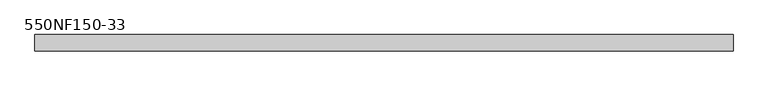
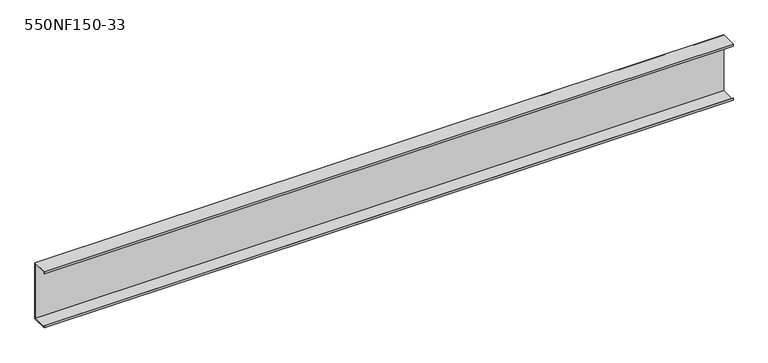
"""IFC4 building model written with IfcOpenShell, lengths in millimetres: beam geometry, BIMSF-SSMA-S : 550NF150-33."""

from ifc_helpers import new_model, si_unit, frame, origin, place, context, project, spatial, polyline, outline, extrude, source, transform, mapped, element, save


def beam_550nf150_33_da6981cb(model_context):
    return source(origin(), model_context, "Body", "SweptSolid", [
        extrude(outline(polyline([(19.05, 69.85), (19.05, -69.85), (-19.05, -69.85), (-19.05, -65.0748), (-18.1676842, -65.0748), (-18.1676842, -68.9676842), (18.1676842, -68.9676842), (18.1676842, 68.9676842), (-18.1676842, 68.9676842), (-18.1676842, 65.0748), (-19.05, 65.0748), (-19.05, 69.85), (19.05, 69.85)])), frame((-812.6047707, 0.0, 0.0), z_axis=(1.0, 0.0, 0.0), x_axis=(0.0, 1.0, 0.0)), (0.0, 0.0, 1.0), 1625.2095413),
    ])


if __name__ == "__main__":
    model = new_model("IFC4")
    model_context = context("Model", 3, world=origin())
    ifc_project = project(units=[si_unit("LENGTHUNIT", "METRE", prefix="MILLI")], contexts=[model_context])
    site = spatial("IfcSite", under=ifc_project)
    building = spatial("IfcBuilding", under=site)
    placement = place(None, origin())
    beam_550nf150_33_shape = beam_550nf150_33_da6981cb(model_context)
    element("IfcBeam", 1, ObjectType="BIMSF-SSMA-S : 550NF150-33", at=placement, inside=building, context=model_context, shape_type="MappedRepresentation", body=[
        mapped(beam_550nf150_33_shape, transform((0.0, 0.0, 0.0), x_axis=(1.0, 0.0, 0.0), y_axis=(0.0, 1.0, 0.0), z_axis=(0.0, 0.0, 1.0))),
    ])
    save(model, "model.ifc")
